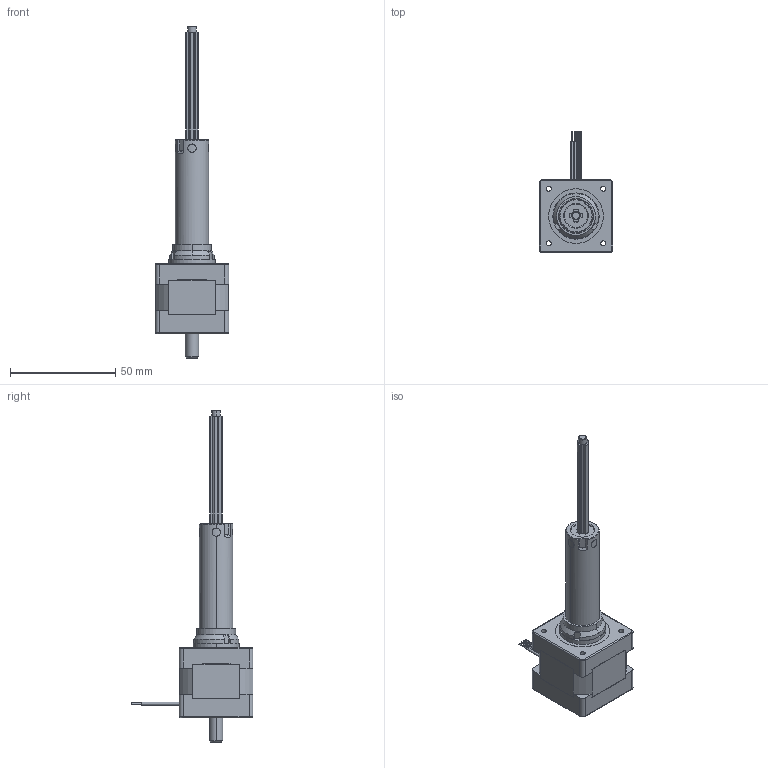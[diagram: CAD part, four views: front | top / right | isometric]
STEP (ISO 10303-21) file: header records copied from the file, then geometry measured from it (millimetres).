
FILE_DESCRIPTION (( 'STEP AP203' ), '1' );
FILE_NAME ('35嘐隅粣.STEP', '2014-09-12T05:08:48', ( 'user' ), ( 'pxctfys' ), 'SwSTEP 2.0', 'SolidWorks 2012', '' );
FILE_SCHEMA (( 'CONFIG_CONTROL_DESIGN' ));
Length unit declared in the file: millimetre
Products named in the file (1): 35嘐隅粣
Bounding box: 35 x 58 x 158 mm (x, y, z)
Surface area: 16554.9 mm2 (no closed solid volume)
Topology: 0 solids, 20 shells, 221 faces, 1455 edges, 1242 vertices
Faces by surface type: cylinder 107, plane 87, cone 13, torus 12, bspline 2
Entity records: 15212 total; most frequent: CARTESIAN_POINT 3840, DIRECTION 2630, ORIENTED_EDGE 1903, EDGE_CURVE 1455, VERTEX_POINT 1242, AXIS2_PLACEMENT_3D 1008, CIRCLE 788, LINE 614
